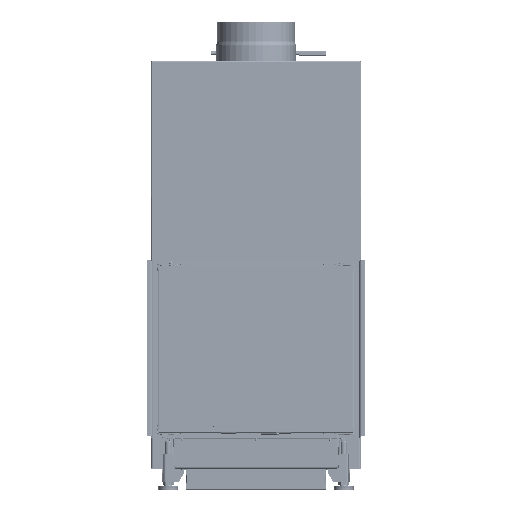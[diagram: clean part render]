
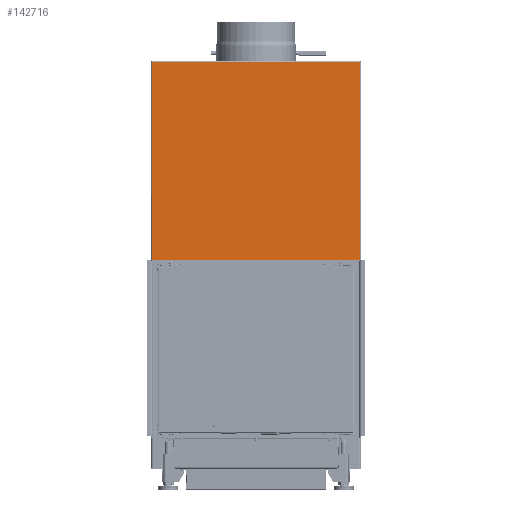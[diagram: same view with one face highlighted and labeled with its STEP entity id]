
A CAD part, front view. The second image highlights one B-rep face of the part: STEP entity #142716.
In plain terms, the highlighted planar face has unit normal (0, -1, 0).
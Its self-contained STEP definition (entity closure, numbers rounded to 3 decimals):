
#8264=PLANE('',#151721);
#17363=FACE_OUTER_BOUND('',#25217,.T.);
#25217=EDGE_LOOP('',(#102825,#102826,#102827,#102828,#102829,#102830));
#35258=LINE('',#215450,#49290);
#35263=LINE('',#215538,#49295);
#35271=LINE('',#215757,#49303);
#35272=LINE('',#215759,#49304);
#35273=LINE('',#215763,#49305);
#35276=LINE('',#215769,#49308);
#49290=VECTOR('',#169868,10.);
#49295=VECTOR('',#169885,10.);
#49303=VECTOR('',#169907,10.);
#49304=VECTOR('',#169910,10.);
#49305=VECTOR('',#169917,10.);
#49308=VECTOR('',#169926,10.);
#63450=VERTEX_POINT('',#215431);
#63451=VERTEX_POINT('',#215442);
#63457=VERTEX_POINT('',#215531);
#63459=VERTEX_POINT('',#215537);
#63468=VERTEX_POINT('',#215748);
#63469=VERTEX_POINT('',#215755);
#78187=EDGE_CURVE('',#63451,#63450,#35258,.T.);
#78199=EDGE_CURVE('',#63459,#63450,#35263,.T.);
#78223=EDGE_CURVE('',#63468,#63469,#35271,.T.);
#78224=EDGE_CURVE('',#63457,#63459,#35272,.T.);
#78226=EDGE_CURVE('',#63469,#63457,#35273,.T.);
#78230=EDGE_CURVE('',#63451,#63468,#35276,.T.);
#102825=ORIENTED_EDGE('',*,*,#78224,.T.);
#102826=ORIENTED_EDGE('',*,*,#78199,.T.);
#102827=ORIENTED_EDGE('',*,*,#78187,.F.);
#102828=ORIENTED_EDGE('',*,*,#78230,.T.);
#102829=ORIENTED_EDGE('',*,*,#78223,.T.);
#102830=ORIENTED_EDGE('',*,*,#78226,.T.);
#142716=ADVANCED_FACE('',(#17363),#8264,.T.);
#151721=AXIS2_PLACEMENT_3D('',#215768,#169924,#169925);
#169868=DIRECTION('',(1.,0.,0.));
#169885=DIRECTION('',(0.,0.,1.));
#169907=DIRECTION('',(0.,0.,-1.));
#169910=DIRECTION('',(0.,0.,1.));
#169917=DIRECTION('',(1.,0.,0.));
#169924=DIRECTION('center_axis',(0.,-1.,0.));
#169925=DIRECTION('ref_axis',(1.,0.,0.));
#169926=DIRECTION('',(0.,0.,-1.));
#215431=CARTESIAN_POINT('',(265.75,-328.496,1042.25));
#215442=CARTESIAN_POINT('',(-265.75,-328.496,1042.25));
#215450=CARTESIAN_POINT('',(0.,-328.496,1042.25));
#215531=CARTESIAN_POINT('',(265.75,-328.496,535.25));
#215537=CARTESIAN_POINT('',(265.75,-328.496,1041.57));
#215538=CARTESIAN_POINT('',(265.75,-328.496,683.846));
#215748=CARTESIAN_POINT('',(-265.75,-328.496,1041.57));
#215755=CARTESIAN_POINT('',(-265.75,-328.496,535.25));
#215757=CARTESIAN_POINT('',(-265.75,-328.496,937.346));
#215759=CARTESIAN_POINT('',(265.75,-328.496,683.846));
#215763=CARTESIAN_POINT('',(134.25,-328.496,535.25));
#215768=CARTESIAN_POINT('Origin',(0.,-328.496,
832.441));
#215769=CARTESIAN_POINT('',(-265.75,-328.496,937.346));
